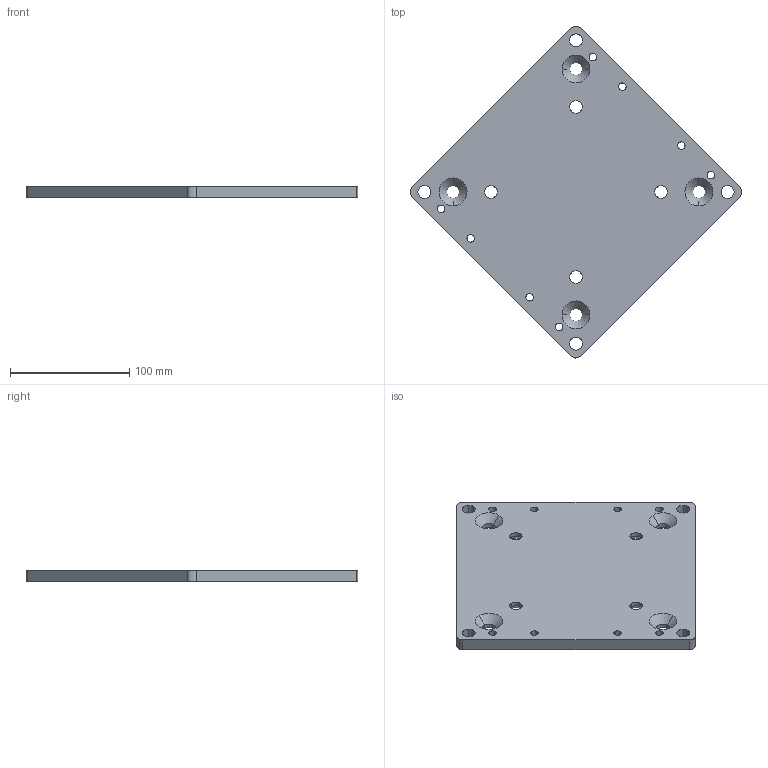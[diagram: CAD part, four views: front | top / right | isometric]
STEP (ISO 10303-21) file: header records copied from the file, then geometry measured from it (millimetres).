
FILE_DESCRIPTION((''),'2;1');
FILE_NAME('1002W1387','2023-08-11T07:22:33',('pah'),(''),'CREO PARAMETRIC BY PTC INC, 2022024','CREO PARAMETRIC BY PTC INC, 2022024','');
FILE_SCHEMA(('AUTOMOTIVE_DESIGN { 1 0 10303 214 1 1 1 1 }'));
Length unit declared in the file: millimetre
Products named in the file (1): 1002W1387
Bounding box: 278.66 x 278.66 x 10 mm (x, y, z)
Volume: 378687.6 mm3; surface area: 90266.4 mm2
Topology: 1 solids, 1 shells, 66 faces, 176 edges, 112 vertices
Faces by surface type: cylinder 44, cone 16, plane 6
Entity records: 2290 total; most frequent: DIRECTION 412, CARTESIAN_POINT 356, ORIENTED_EDGE 352, EDGE_CURVE 176, AXIS2_PLACEMENT_3D 170, VERTEX_POINT 112, EDGE_LOOP 106, CIRCLE 104
